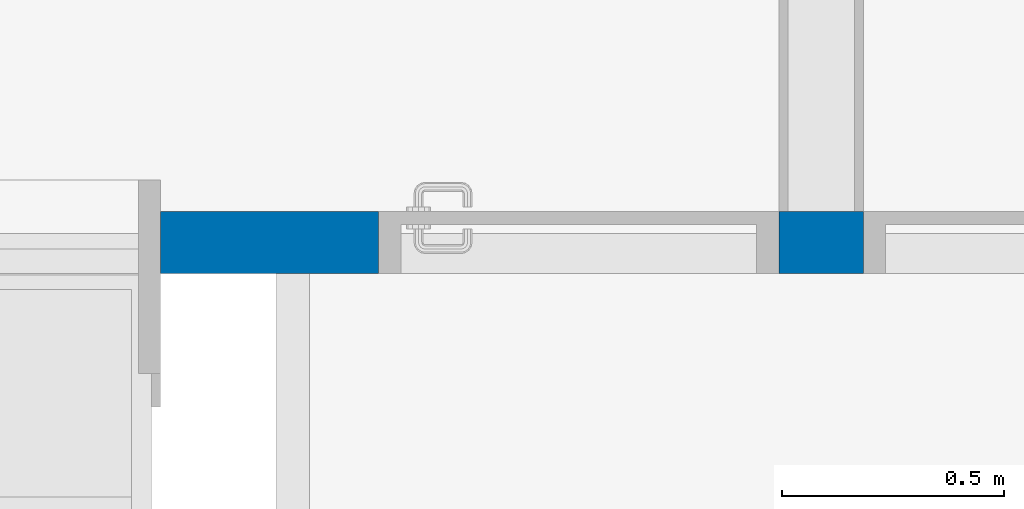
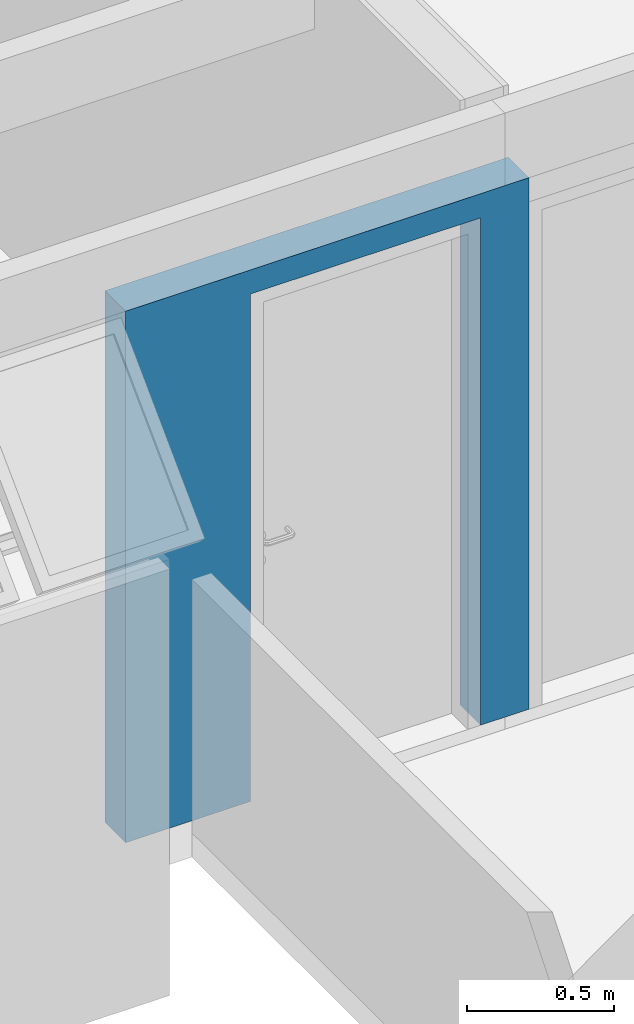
# One storey, part 17 of 37: 1 wall, 1 opening.
"""IFC2X3 building model written with IfcOpenShell, lengths in millimetres."""

from ifc_helpers import new_model, entity, si_unit, converted_unit, derived_unit, money_unit, direction, frame, origin_with_axes, origin_2d_with_axis, place, context, subcontext, project, spatial, polyline, rectangle, outline, extrude, material, layer, layer_set, layer_usage, type_object, element, save


model = new_model("IFC2X3")

# Units and contexts
model_context = context("Model", 3, precision=0.01, world=origin_with_axes(), true_north=direction((0.0, 1.0)))
body_context = subcontext(model_context, "Body", "Model", "MODEL_VIEW")
ifc_project = project(units=[si_unit("LENGTHUNIT", "METRE", prefix="MILLI"), si_unit("AREAUNIT", "SQUARE_METRE"), si_unit("VOLUMEUNIT", "CUBIC_METRE"), converted_unit("PLANEANGLEUNIT", "DEGREE", entity("IfcPlaneAngleMeasure", 0.0174532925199), si_unit("PLANEANGLEUNIT", "RADIAN"), dimensions=[0, 0, 0, 0, 0, 0, 0]), money_unit("USD"), converted_unit("TIMEUNIT", "Year", entity("IfcTimeMeasure", 31556926.0), si_unit("TIMEUNIT", "SECOND"), dimensions=[0, 0, 1, 0, 0, 0, 0]), si_unit("MASSUNIT", "GRAM", prefix="KILO"), si_unit("THERMODYNAMICTEMPERATUREUNIT", "DEGREE_CELSIUS"), si_unit("LUMINOUSINTENSITYUNIT", "LUMEN"), si_unit("ENERGYUNIT", "JOULE", prefix="MEGA"), derived_unit("THERMALCONDUCTANCEUNIT", [(si_unit("POWERUNIT", "WATT"), 1), (si_unit("LENGTHUNIT", "METRE"), -1), (si_unit("THERMODYNAMICTEMPERATUREUNIT", "KELVIN"), -1)]), derived_unit("SPECIFICHEATCAPACITYUNIT", [(si_unit("ENERGYUNIT", "JOULE"), 1), (si_unit("MASSUNIT", "GRAM", prefix="KILO"), -1), (si_unit("THERMODYNAMICTEMPERATUREUNIT", "KELVIN"), -1)]), derived_unit("MASSDENSITYUNIT", [(si_unit("MASSUNIT", "GRAM", prefix="KILO"), 1), (si_unit("VOLUMEUNIT", "CUBIC_METRE"), -1)])], contexts=[model_context])

# Site, building, storey
site_placement = place(None, origin_with_axes())
site = spatial("IfcSite", under=ifc_project, at=site_placement, Name="Local", CompositionType="ELEMENT")
building_placement = place(site_placement, origin_with_axes())
building = spatial("IfcBuilding", under=site, at=building_placement, Name="Construção", CompositionType="ELEMENT")
storey_placement = place(building_placement, origin_with_axes())
storey = spatial("IfcBuildingStorey", under=building, at=storey_placement, Name="Primeiro Pavimento", CompositionType="ELEMENT", Elevation=0.0)

# Wall, opening
ifc_material = material(Name="GENÉRICO - VEDAÇÃO EXTERNA")
ifc_layer = layer(ifc_material, 140.0, ventilated="UNKNOWN")
ifc_layer_set = layer_set([ifc_layer], Name="GENÉRICO - VEDAÇÃO EXTERNA 140")
ifc_layer_usage = layer_usage(ifc_layer_set, "AXIS2", "POSITIVE", 0.0)
wall_type = type_object("IfcWallType", Name="GENÉRICO - VEDAÇÃO EXTERNA 140", PredefinedType="NOTDEFINED")
wall_placement = place(storey_placement, frame((7480.0, 18035.0, 0.0), z_axis=(0.0, 0.0, 1.0), x_axis=(-1.0, 0.0, 0.0)))
wall = element("IfcWallStandardCase", 1, at=wall_placement, inside=storey, type_object=wall_type, material=ifc_layer_usage, Name="APTO3-PAREDE-004", context=body_context, shape_type="SweptSolid", body=[
    extrude(outline(polyline([(0.0, 0.0), (1580.0, 0.0), (1580.0, 140.0), (0.0, 140.0), (0.0, 0.0)])), origin_with_axes(), (0.0, 0.0, 1.0), 2200.0),
])
opening_placement = place(wall_placement, frame((640.0, 0.0, 0.0), z_axis=(0.0, 0.0, 1.0), x_axis=(1.0, 0.0, 0.0)))
element("IfcOpeningElement", 2, at=opening_placement, cuts=wall, Name="APTO3-PORTA-004", context=body_context, shape_type="SweptSolid", body=[
    extrude(rectangle(XDim=900.0, YDim=2100.0, at=origin_2d_with_axis()), frame((0.0, -140.0, 1050.0), z_axis=(0.0, 1.0, 0.0), x_axis=(-1.0, 0.0, 0.0)), (0.0, 0.0, 1.0), 420.0),
])

save(model, "model.ifc")
